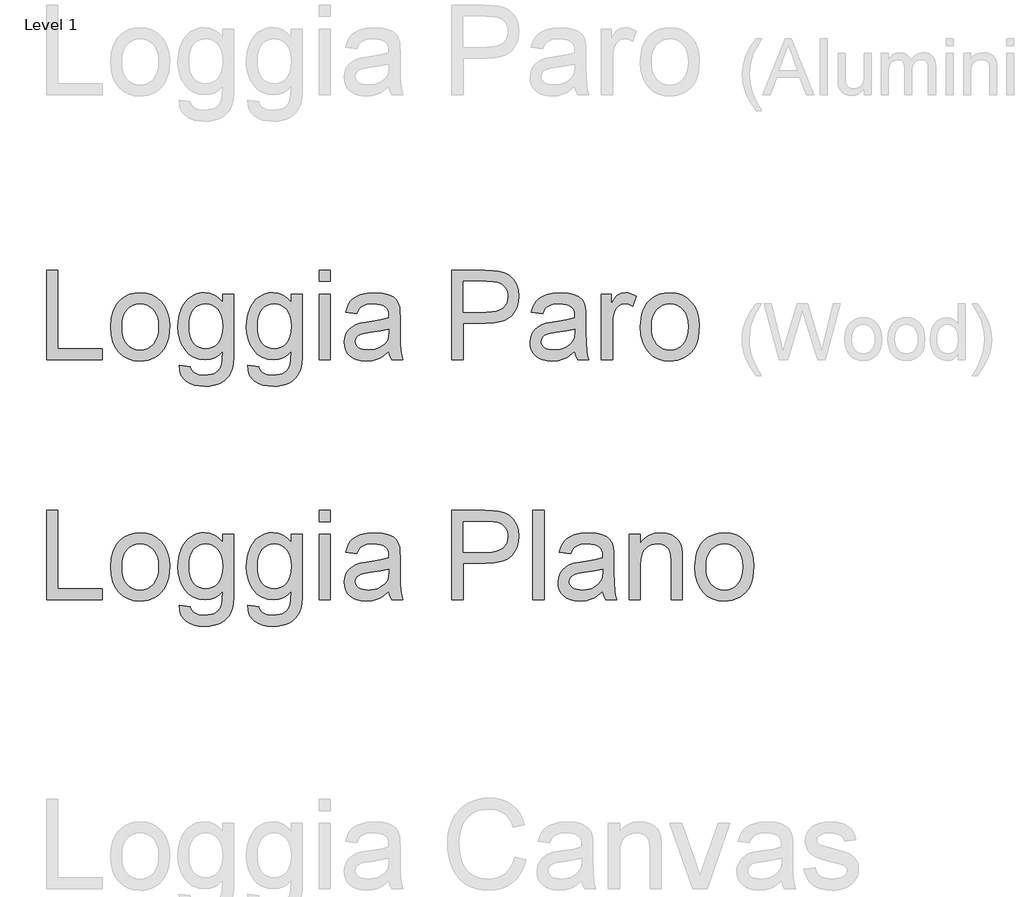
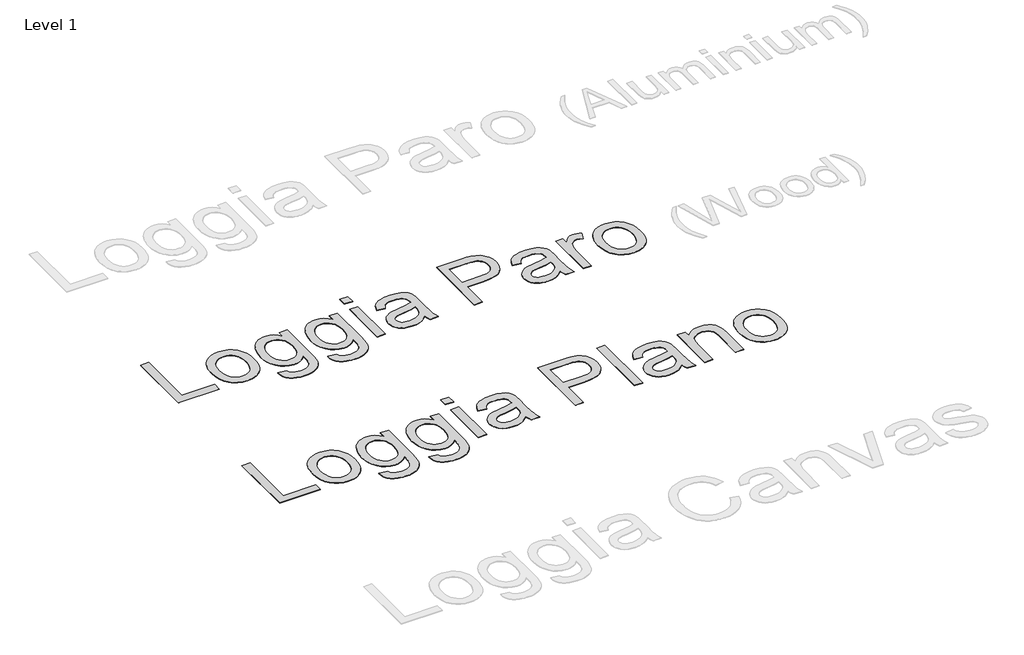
# One storey, part 31 of 69: 2 proxies.
"""IFC4 building model written with IfcOpenShell, lengths in millimetres."""

import ifcopenshell
import ifcopenshell.guid

model = None  # the IFC model being written
_history = None  # IfcOwnerHistory: only IFC2X3 demands one
_inside = {}  # id of a spatial element -> (the spatial element, [elements in it])
_under = {}  # id of a project, library or spatial element -> (it, [spatial elements below it])
_declared = {}  # id of a project -> (the project, [libraries it declares])
_typed = {}  # id of a type object -> (the type object, [elements of that type])
_made_of = {}  # id of a material, layer set ... -> (it, [elements and type objects made of it])


def new_model(schema):
    """Start an empty IFC model of exactly this schema.

    Asked for "IFC4X3", IfcOpenShell would pick the latest addendum, in which some entities
    have other attributes; the version numbers below select the first issue.
    IFC2X3 requires an IfcOwnerHistory on every rooted entity: one is made here for all.
    """
    global model, _history
    if schema == "IFC4X3":
        model = ifcopenshell.file(schema_version=(4, 3, 0, 0))
    else:
        model = ifcopenshell.file(schema=schema)
    _inside.clear()
    _under.clear()
    _declared.clear()
    _typed.clear()
    _made_of.clear()
    _history = None
    if model.schema == "IFC2X3":
        org = make("IfcOrganization", Name="unknown")
        user = make(
            "IfcPersonAndOrganization",
            ThePerson=make("IfcPerson", FamilyName="unknown"),
            TheOrganization=org,
        )
        app = make(
            "IfcApplication",
            ApplicationDeveloper=org,
            Version="unknown",
            ApplicationFullName="unknown",
            ApplicationIdentifier="unknown",
        )
        _history = make(
            "IfcOwnerHistory",
            OwningUser=user,
            OwningApplication=app,
            ChangeAction="ADDED",
            CreationDate=0,
        )
    return model


def make(cls, **values):
    """One entity of the class cls with the attributes given. An attribute that is None is left unset."""
    return model.create_entity(
        cls, **{name: value for name, value in values.items() if value is not None}
    )


def rooted(cls, **values):
    """An entity with a GlobalId (a new one), such as an element, a storey or a relation."""
    return make(cls, GlobalId=ifcopenshell.guid.new(), OwnerHistory=_history, **values)


def si_unit(unit_type, name, prefix=None):
    """IfcSIUnit, for example si_unit("LENGTHUNIT", "METRE", prefix="MILLI")."""
    return make("IfcSIUnit", UnitType=unit_type, Prefix=prefix, Name=name)


def assignment(units):
    """IfcUnitAssignment: the units of a project."""
    return None if units is None else make("IfcUnitAssignment", Units=units)


def point(xyz):
    """IfcCartesianPoint."""
    return None if xyz is None else make("IfcCartesianPoint", Coordinates=xyz)


def direction(xyz):
    """IfcDirection."""
    return None if xyz is None else make("IfcDirection", DirectionRatios=xyz)


def frame(location, z_axis=None, x_axis=None):
    """IfcAxis2Placement3D, a coordinate frame: its origin and axes. An axis left out is left unset."""
    return make(
        "IfcAxis2Placement3D",
        Location=point(location),
        Axis=direction(z_axis),
        RefDirection=direction(x_axis),
    )


def origin():
    """The frame at (0, 0, 0) with its axes left unset."""
    return frame((0.0, 0.0, 0.0))


def origin_with_axes():
    """The frame at (0, 0, 0) with the z axis (0, 0, 1) and the x axis (1, 0, 0) written out."""
    return frame((0.0, 0.0, 0.0), z_axis=(0.0, 0.0, 1.0), x_axis=(1.0, 0.0, 0.0))


def place(relative_to, where):
    """IfcLocalPlacement: puts the frame where relative to a parent placement (None: the world)."""
    return make(
        "IfcLocalPlacement", PlacementRelTo=relative_to, RelativePlacement=where
    )


def context(
    kind, dimensions, precision=None, world=None, true_north=None, identifier=None
):
    """IfcGeometricRepresentationContext, for example the 3D "Model" context."""
    return make(
        "IfcGeometricRepresentationContext",
        ContextIdentifier=identifier,
        ContextType=kind,
        CoordinateSpaceDimension=dimensions,
        Precision=precision,
        WorldCoordinateSystem=world,
        TrueNorth=true_north,
    )


def project(units=None, contexts=None):
    """IfcProject with its units and contexts."""
    return rooted(
        "IfcProject",
        Name="project",
        RepresentationContexts=contexts,
        UnitsInContext=assignment(units),
    )


def spatial(cls, under=None, at=None, **own):
    """A site, building, storey or space (cls), placed at a placement, below another one or the project."""
    s = rooted(cls, ObjectPlacement=at, **own)
    if under is not None:
        _under.setdefault(under.id(), (under, []))[1].append(s)
    return s


def polyline(points):
    """IfcPolyline through the points."""
    return make("IfcPolyline", Points=[point(p) for p in points])


def outline(outer, holes=None, kind="AREA"):
    """IfcArbitraryClosedProfileDef: a profile drawn as a closed curve; with holes, ...WithVoids."""
    if holes is None:
        return make("IfcArbitraryClosedProfileDef", ProfileType=kind, OuterCurve=outer)
    return make(
        "IfcArbitraryProfileDefWithVoids",
        ProfileType=kind,
        OuterCurve=outer,
        InnerCurves=holes,
    )


def extrude(swept, where, along, depth):
    """IfcExtrudedAreaSolid: the profile swept, set in the frame where, extruded along a direction by depth."""
    return make(
        "IfcExtrudedAreaSolid",
        SweptArea=swept,
        Position=where,
        ExtrudedDirection=direction(along),
        Depth=depth,
    )


def shape(context_of_items, identifier, shape_type, items):
    """IfcShapeRepresentation: the items that make up one representation, for example the "Body"."""
    return make(
        "IfcShapeRepresentation",
        ContextOfItems=context_of_items,
        RepresentationIdentifier=identifier,
        RepresentationType=shape_type,
        Items=items,
    )


def made_of(thing, what):
    """Note that an element or type object is made of a material, layer set ...; save() writes the relation."""
    if what is not None:
        _made_of.setdefault(what.id(), (what, []))[1].append(thing)
    return thing


def element(
    cls,
    number,
    at=None,
    inside=None,
    cuts=None,
    type_object=None,
    material=None,
    context=None,
    identifier="Body",
    shape_type=None,
    held_by="IfcProductDefinitionShape",
    body=None,
    shapes=None,
    **own,
):
    """One element of the class cls, such as IfcWall. Its Tag is "e" and its number.

    at: its placement. inside: the storey or other place that contains it. cuts: it is an
    opening in that element (IfcRelVoidsElement). A single representation is given by context,
    identifier, shape_type and body (its items); several are given by shapes. held_by: the class
    of the entity that holds the representations. save() writes the other relations.
    """
    e = rooted(cls, Tag="e%d" % number, ObjectPlacement=at, **own)
    if body is not None:
        shapes = [shape(context, identifier, shape_type, body)]
    if shapes is not None:
        e.Representation = make(held_by, Representations=shapes)
    if inside is not None:
        _inside.setdefault(inside.id(), (inside, []))[1].append(e)
    if cuts is not None:
        rooted(
            "IfcRelVoidsElement", RelatingBuildingElement=cuts, RelatedOpeningElement=e
        )
    if type_object is not None:
        _typed.setdefault(type_object.id(), (type_object, []))[1].append(e)
    return made_of(e, material)


def aggregate(whole, parts):
    """IfcRelAggregates: a whole, such as a stair, and the parts it consists of."""
    return rooted("IfcRelAggregates", RelatingObject=whole, RelatedObjects=parts)


def save(model, path):
    """Write the relations noted so far, then the file.

    IfcRelAggregates (storeys below a building ...), IfcRelContainedInSpatialStructure (elements
    in a storey), IfcRelDefinesByType, IfcRelAssociatesMaterial and IfcRelDeclares: one each for
    every whole, place, type object, material and project.
    """
    for whole, parts in _under.values():
        aggregate(whole, parts)
    for where, things in _inside.values():
        rooted(
            "IfcRelContainedInSpatialStructure",
            RelatedElements=things,
            RelatingStructure=where,
        )
    for kind, things in _typed.values():
        rooted("IfcRelDefinesByType", RelatedObjects=things, RelatingType=kind)
    for what, things in _made_of.values():
        rooted("IfcRelAssociatesMaterial", RelatedObjects=things, RelatingMaterial=what)
    for by, libraries in _declared.values():
        rooted("IfcRelDeclares", RelatingContext=by, RelatedDefinitions=libraries)
    model.write(path)


model = new_model("IFC4")

# Units and contexts
model_context = context("Model", 3, world=origin())
ifc_project = project(units=[si_unit("LENGTHUNIT", "METRE", prefix="MILLI")], contexts=[model_context])

# Site, building, storey
site = spatial("IfcSite", under=ifc_project)
building = spatial("IfcBuilding", under=site)
storey = spatial("IfcBuildingStorey", under=building, Name="Level 1", Elevation=0.0)

# Proxies
placement = place(None, origin())
element("IfcBuildingElementProxy", 1, Name="800mm Arial", ObjectType="800mm Arial", at=placement, inside=storey, context=model_context, shape_type="SweptSolid", body=[
    extrude(outline(polyline([(193965.6331768, -17074.9862349), (193965.6331768, -16275.5975366), (194065.556764, -16275.5975366), (194065.556764, -16975.0626476), (194465.2511132, -16975.0626476), (194465.2511132, -17074.9862349), (193965.6331768, -17074.9862349)])), origin_with_axes(), (0.0, 0.0, 1.0), 5.0),
    extrude(outline(polyline([(194540.1938037, -16781.4606973), (194545.5973864, -16705.4324112), (194552.3518647, -16671.3611758), (194561.8081343, -16639.9185455), (194573.9661953, -16611.1045204), (194588.8260477, -16584.9191003), (194606.3876913, -16561.3622854), (194626.6511263, -16540.4340756), (194664.7323567, -16512.0012287), (194706.7656431, -16491.6920523), (194752.7509853, -16479.5065465), (194802.6883836, -16475.4447112), (194857.8159047, -16480.39088), (194907.6618201, -16495.2293863), (194952.22613, -16519.9602302), (194991.5088342, -16554.5834117), (195023.5704979, -16597.9279511), (195046.4716863, -16648.8228691), (195060.2123993, -16707.2681656), (195064.792637, -16773.2638405), (195062.7678182, -16826.7507705), (195056.6933618, -16874.2120349), (195046.5692679, -16915.6476338), (195032.3955364, -16951.0575671), (195014.349034, -16981.6433087), (194992.6066275, -17008.6063323), (194967.1683168, -17031.946638), (194938.0341019, -17051.6642258), (194906.3383693, -17067.332176), (194873.2155054, -17078.523569), (194838.6655101, -17085.2384048), (194802.6883836, -17087.4766834), (194746.7558141, -17082.5488111), (194696.4463859, -17067.7651945), (194651.760099, -17043.1258333), (194612.6969535, -17008.6307278), (194580.9768254, -16964.8653675), (194558.3195911, -16912.4152423), (194544.7252505, -16851.2803523), (194540.1938037, -16781.4606973)]), holes=[polyline([(194640.117391, -16781.265534), (194643.0082467, -16829.733109), (194651.6808139, -16871.699308), (194666.1350926, -16907.164131), (194686.3710828, -16936.127578), (194710.9860485, -16958.6262421), (194738.5772539, -16974.6967165), (194769.1446989, -16984.3390012), (194802.6883836, -16987.5530961), (194836.0613004, -16984.3207046), (194866.5067684, -16974.6235303), (194894.0247876, -16958.4615731), (194918.6153579, -16935.8348331), (194938.8513481, -16906.58474), (194953.3056267, -16870.5527238), (194961.9781939, -16827.7387844), (194964.8690497, -16778.1429219), (194961.9598974, -16731.2122576), (194953.2324405, -16690.3438519), (194938.6866791, -16655.5377049), (194918.322613, -16626.7938165), (194893.6405599, -16604.2951524), (194866.1408373, -16588.224678), (194835.8234452, -16578.5823934), (194802.6883836, -16575.3682985), (194769.1446989, -16578.5701957), (194738.5772539, -16588.1758872), (194710.9860485, -16604.1853731), (194686.3710828, -16626.5986533), (194666.1350926, -16655.4767164), (194651.6808139, -16690.8805509), (194643.0082467, -16732.8101567), (194640.117391, -16781.265534)])]), origin_with_axes(), (0.0, 0.0, 1.0), 5.0),
    extrude(outline(polyline([(195152.2257759, -17124.9480286), (195252.1493631, -17137.438477), (195256.3697686, -17154.2713079), (195263.1760871, -17168.664598), (195272.5683189, -17180.6183475), (195284.5464637, -17190.1325562), (195303.9286146, -17199.8663236), (195326.5553547, -17206.8190147), (195381.5426022, -17212.3811675), (195412.7443278, -17210.8076637), (195440.1891607, -17206.0871524), (195463.877101, -17198.2196337), (195483.8081485, -17187.2051074), (195500.3970253, -17173.3485162), (195514.0584533, -17156.9548026), (195524.7924324, -17138.0239668), (195532.5989626, -17116.5560086), (195538.014743, -17073.5713013), (195539.4296766, -17000.0435445), (195506.1787368, -17032.8309715), (195469.0733227, -17056.2505623), (195428.1134342, -17070.3023168), (195383.2990715, -17074.9862349), (195328.5130861, -17069.5338615), (195280.2772675, -17053.176741), (195258.6156707, -17040.9089007), (195238.5916157, -17025.9148736), (195203.4561307, -16987.7482593), (195175.5782793, -16941.9580803), (195155.6655283, -16891.8255188), (195143.7178776, -16837.3505748), (195139.7353274, -16778.5332484), (195141.522291, -16737.3842956), (195146.8831817, -16697.8576373), (195155.8179995, -16659.9532736), (195168.3267445, -16623.6712044), (195184.2203522, -16590.2190025), (195203.3097582, -16560.8042405), (195225.5949626, -16535.4269183), (195251.0759652, -16514.087036), (195279.3441432, -16497.1810189), (195309.9908733, -16485.1052924), (195343.0161556, -16477.8598565), (195378.4199901, -16475.4447112), (195425.1493923, -16480.9092824), (195467.5608074, -16497.3029959), (195505.6542356, -16524.6258518), (195539.4296766, -16562.8778501), (195539.4296766, -16487.9351596), (195639.3532639, -16487.9351596), (195639.3532639, -16994.7741365), (195637.6455854, -17058.28148), (195632.5225499, -17111.7989042), (195623.9841575, -17155.3264092), (195612.030408, -17188.8639951), (195596.3746555, -17215.9124026), (195576.730254, -17239.9723728), (195553.0972034, -17261.0439057), (195525.4755038, -17279.1270012), (195494.1457023, -17293.6422684), (195459.3883461, -17304.0103164), (195421.2034352, -17310.2311452), (195379.5909696, -17312.3047548), (195330.6354865, -17309.3834048), (195286.6200733, -17300.6193548), (195247.5447301, -17286.0126048), (195213.4094567, -17265.5631548), (195185.8365479, -17239.2466095), (195166.4482982, -17207.0385733), (195155.2447075, -17168.9390464), (195152.2257759, -17124.9480286)]), holes=[polyline([(195239.6589147, -16771.7025344), (195242.324113, -16821.1093326), (195250.3197076, -16863.3560787), (195263.6456987, -16898.4427729), (195282.3020863, -16926.3694152), (195304.983716, -16947.6727044), (195330.3854336, -16962.8893395), (195358.5072391, -16972.0193206), (195389.3491324, -16975.0626476), (195419.8860832, -16972.0376172), (195447.8737139, -16962.9625257), (195473.3120246, -16947.8373734), (195496.2010153, -16926.6621601), (195515.1135546, -16899.0099662), (195528.6225113, -16864.4538721), (195536.7278853, -16822.9938778), (195539.4296766, -16774.6299833), (195536.6486002, -16728.2848087), (195528.305371, -16688.0018928), (195514.399989, -16653.7812356), (195494.9324542, -16625.622837), (195471.5494565, -16603.6364764), (195445.897686, -16587.9319331), (195417.9771426, -16578.5092071), (195387.7878264, -16575.3682985), (195358.1047148, -16578.4604163), (195330.7269693, -16587.7367699), (195305.6545897, -16603.1973591), (195282.887576, -16624.842184), (195263.9750367, -16652.5736629), (195250.4660801, -16686.2942143), (195242.3607061, -16726.0038382), (195239.6589147, -16771.7025344)])]), origin_with_axes(), (0.0, 0.0, 1.0), 5.0),
    extrude(outline(polyline([(195764.257748, -17124.9480286), (195864.1813353, -17137.438477), (195868.4017407, -17154.2713079), (195875.2080593, -17168.664598), (195884.600291, -17180.6183475), (195896.5784359, -17190.1325562), (195915.9605868, -17199.8663236), (195938.5873268, -17206.8190147), (195993.5745743, -17212.3811675), (196024.7763, -17210.8076637), (196052.2211329, -17206.0871524), (196075.9090731, -17198.2196337), (196095.8401207, -17187.2051074), (196112.4289975, -17173.3485162), (196126.0904254, -17156.9548026), (196136.8244046, -17138.0239668), (196144.6309348, -17116.5560086), (196150.0467152, -17073.5713013), (196151.4616488, -17000.0435445), (196118.210709, -17032.8309715), (196081.1052948, -17056.2505623), (196040.1454064, -17070.3023168), (195995.3310436, -17074.9862349), (195940.5450582, -17069.5338615), (195892.3092397, -17053.176741), (195870.6476429, -17040.9089007), (195850.6235878, -17025.9148736), (195815.4881028, -16987.7482593), (195787.6102514, -16941.9580803), (195767.6975004, -16891.8255188), (195755.7498498, -16837.3505748), (195751.7672996, -16778.5332484), (195753.5542632, -16737.3842956), (195758.9151539, -16697.8576373), (195767.8499717, -16659.9532736), (195780.3587167, -16623.6712044), (195796.2523244, -16590.2190025), (195815.3417304, -16560.8042405), (195837.6269347, -16535.4269183), (195863.1079374, -16514.087036), (195891.3761153, -16497.1810189), (195922.0228454, -16485.1052924), (195955.0481277, -16477.8598565), (195990.4519622, -16475.4447112), (196037.1813644, -16480.9092824), (196079.5927796, -16497.3029959), (196117.6862077, -16524.6258518), (196151.4616488, -16562.8778501), (196151.4616488, -16487.9351596), (196251.3852361, -16487.9351596), (196251.3852361, -16994.7741365), (196249.6775576, -17058.28148), (196244.5545221, -17111.7989042), (196236.0161296, -17155.3264092), (196224.0623802, -17188.8639951), (196208.4066277, -17215.9124026), (196188.7622262, -17239.9723728), (196165.1291756, -17261.0439057), (196137.5074759, -17279.1270012), (196106.1776744, -17293.6422684), (196071.4203182, -17304.0103164), (196033.2354073, -17310.2311452), (195991.6229418, -17312.3047548), (195942.6674587, -17309.3834048), (195898.6520455, -17300.6193548), (195859.5767022, -17286.0126048), (195825.4414289, -17265.5631548), (195797.8685201, -17239.2466095), (195778.4802703, -17207.0385733), (195767.2766796, -17168.9390464), (195764.257748, -17124.9480286)]), holes=[polyline([(195851.6908869, -16771.7025344), (195854.3560851, -16821.1093326), (195862.3516798, -16863.3560787), (195875.6776709, -16898.4427729), (195894.3340584, -16926.3694152), (195917.0156881, -16947.6727044), (195942.4174057, -16962.8893395), (195970.5392112, -16972.0193206), (196001.3811046, -16975.0626476), (196031.9180554, -16972.0376172), (196059.9056861, -16962.9625257), (196085.3439968, -16947.8373734), (196108.2329875, -16926.6621601), (196127.1455268, -16899.0099662), (196140.6544835, -16864.4538721), (196148.7598575, -16822.9938778), (196151.4616488, -16774.6299833), (196148.6805724, -16728.2848087), (196140.3373432, -16688.0018928), (196126.4319611, -16653.7812356), (196106.9644263, -16625.622837), (196083.5814287, -16603.6364764), (196057.9296581, -16587.9319331), (196030.0091148, -16578.5092071), (195999.8197985, -16575.3682985), (195970.136687, -16578.4604163), (195942.7589414, -16587.7367699), (195917.6865618, -16603.1973591), (195894.9195482, -16624.842184), (195876.0070089, -16652.5736629), (195862.4980522, -16686.2942143), (195854.3926782, -16726.0038382), (195851.6908869, -16771.7025344)])]), origin_with_axes(), (0.0, 0.0, 1.0), 5.0),
    extrude(outline(polyline([(196401.270617, -16375.5211239), (196401.270617, -16275.5975366), (196501.1942043, -16275.5975366), (196501.1942043, -16375.5211239), (196401.270617, -16375.5211239)])), origin_with_axes(), (0.0, 0.0, 1.0), 5.0),
    extrude(outline(polyline([(196401.270617, -17074.9862349), (196401.270617, -16487.9351596), (196501.1942043, -16487.9351596), (196501.1942043, -17074.9862349), (196401.270617, -17074.9862349)])), origin_with_axes(), (0.0, 0.0, 1.0), 5.0),
    extrude(outline(polyline([(197025.7930376, -17000.0435445), (196978.051226, -17040.9790375), (196953.6497201, -17056.140783), (196928.8944808, -17067.7651945), (196877.2006132, -17082.5488111), (196821.8474346, -17087.4766834), (196777.356311, -17084.5126414), (196738.3419563, -17075.6205155), (196704.8043704, -17060.8003057), (196676.7435535, -17040.052012), (196654.586425, -17014.6929864), (196638.7599047, -16986.0405808), (196629.2639925, -16954.0947953), (196626.0986884, -16918.8556298), (196630.8801882, -16877.4322286), (196645.2246876, -16839.8145109), (196667.3513218, -16807.6125736), (196695.4792261, -16782.4365135), (196728.5350026, -16763.408096), (196765.4452535, -16749.6490865), (196851.9025761, -16734.6215157), (196954.0705409, -16718.813292), (197025.2075478, -16700.2727826), (197025.7930376, -16678.0241714), (197024.0731614, -16653.7995322), (197018.9135328, -16633.4293673), (197010.3141518, -16616.9136767), (196998.2750184, -16604.2524604), (196977.4657362, -16591.6156396), (196952.1189083, -16582.589339), (196922.2345347, -16577.1735586), (196887.8126153, -16575.3682985), (196828.2878221, -16580.1741937), (196805.2585578, -16586.1815627), (196786.7180485, -16594.5918792), (196771.4831168, -16606.0638194), (196758.3705855, -16621.2560591), (196747.3804546, -16640.1685985), (196738.5127241, -16662.8014374), (196638.5891368, -16650.3109889), (196655.9342713, -16595.6652771), (196667.8087356, -16572.7335945), (196681.8177981, -16552.7293607), (196698.5652451, -16535.2500516), (196718.6548628, -16519.8931428), (196742.0866513, -16506.6586345), (196768.8606105, -16495.5465266), (196830.2638501, -16480.470165), (196900.6933902, -16475.4447112), (196968.2442724, -16479.8846753), (197021.7921908, -16493.2045675), (197062.1665895, -16513.2331967), (197090.1969122, -16537.7993716), (197108.7862124, -16568.1716534), (197120.8375435, -16605.6186032), (197124.4968545, -16640.1624996), (197125.7166249, -16693.0517421), (197125.7166249, -16817.3707364), (197126.9851861, -16925.6619484), (197130.7908696, -16990.968453), (197138.3046549, -17033.8799741), (197150.6975217, -17074.9862349), (197050.7739344, -17074.9862349), (197034.7705474, -17040.2471753), (197025.7930376, -17000.0435445)]), holes=[polyline([(197025.7930376, -16800.1963699), (196958.6568774, -16816.8340375), (196864.5881878, -16830.8370011), (196812.7479478, -16838.497159), (196778.6187733, -16847.0355514), (196756.2481851, -16858.1110662), (196739.6837037, -16873.382591), (196729.4376327, -16891.6791463), (196726.0222757, -16911.8297526), (196727.8824255, -16927.3574292), (196733.4628749, -16941.5433584), (196742.7636238, -16954.3875402), (196755.7846723, -16965.8899746), (196772.4040434, -16975.3675902), (196792.4997599, -16982.1373157), (196843.1202296, -16987.5530961), (196896.7901251, -16981.5762213), (196921.2831138, -16974.1051279), (196944.2147964, -16963.6455971), (196982.6619579, -16937.2253713), (197009.3993241, -16905.7796916), (197021.2554919, -16873.382591), (197025.2075478, -16828.4950421), (197025.7930376, -16800.1963699)])]), origin_with_axes(), (0.0, 0.0, 1.0), 5.0),
    extrude(outline(polyline([(197587.8632161, -17074.9862349), (197587.8632161, -16275.5975366), (197884.1210394, -16275.5975366), (197953.1112505, -16277.5003783), (198003.5609523, -16283.2089036), (198056.8161259, -16297.4314259), (198100.6546724, -16320.5826672), (198119.2622691, -16335.7688081), (198135.9548264, -16353.71163), (198163.5948226, -16397.8673168), (198174.0116614, -16423.3056275), (198181.4522606, -16449.9515108), (198187.4047399, -16506.8659955), (198183.3855966, -16555.9373568), (198171.3281666, -16601.0810575), (198151.2324501, -16642.2970977), (198123.0984469, -16679.5854774), (198105.4041532, -16696.1438599), (198084.4744187, -16710.4944581), (198060.3092433, -16722.637272), (198032.908627, -16732.5723015), (197968.4010719, -16745.8190076), (197890.9517534, -16750.2345762), (197687.7868034, -16750.2345762), (197687.7868034, -17074.9862349), (197587.8632161, -17074.9862349)]), holes=[polyline([(197687.7868034, -16650.3109889), (197896.806651, -16650.3109889), (197944.8656029, -16648.0178207), (197985.4107695, -16641.1383159), (198018.4421506, -16629.6724746), (198043.9597464, -16613.6202967), (198063.0003616, -16593.408702), (198076.600801, -16569.46461), (198084.7610647, -16541.7880207), (198087.4811526, -16510.3789341), (198085.8771546, -16487.0569249), (198081.0651605, -16465.4913851), (198073.0451705, -16445.6823146), (198061.8171844, -16427.6297134), (198047.9788897, -16411.9190712), (198032.127974, -16399.1358779), (198014.2644372, -16389.2801335), (197994.3882793, -16382.3518379), (197955.8435361, -16377.2288024), (197894.464692, -16375.5211239), (197687.7868034, -16375.5211239), (197687.7868034, -16650.3109889)])]), origin_with_axes(), (0.0, 0.0, 1.0), 5.0),
    extrude(outline(polyline([(198687.0226763, -17000.0435445), (198639.2808647, -17040.9790375), (198614.8793588, -17056.140783), (198590.1241195, -17067.7651945), (198538.430252, -17082.5488111), (198483.0770734, -17087.4766834), (198438.5859498, -17084.5126414), (198399.571595, -17075.6205155), (198366.0340092, -17060.8003057), (198337.9731922, -17040.052012), (198315.8160638, -17014.6929864), (198299.9895434, -16986.0405808), (198290.4936312, -16954.0947953), (198287.3283272, -16918.8556298), (198292.1098269, -16877.4322286), (198306.4543263, -16839.8145109), (198328.5809605, -16807.6125736), (198356.7088648, -16782.4365135), (198389.7646414, -16763.408096), (198426.6748923, -16749.6490865), (198513.1322149, -16734.6215157), (198615.3001796, -16718.813292), (198686.4371866, -16700.2727826), (198687.0226763, -16678.0241714), (198685.3028001, -16653.7995322), (198680.1431715, -16633.4293673), (198671.5437906, -16616.9136767), (198659.5046572, -16604.2524604), (198638.695375, -16591.6156396), (198613.348547, -16582.589339), (198583.4641734, -16577.1735586), (198549.042254, -16575.3682985), (198489.5174608, -16580.1741937), (198466.4881966, -16586.1815627), (198447.9476872, -16594.5918792), (198432.7127555, -16606.0638194), (198419.6002242, -16621.2560591), (198408.6100933, -16640.1685985), (198399.7423629, -16662.8014374), (198299.8187756, -16650.3109889), (198317.16391, -16595.6652771), (198329.0383744, -16572.7335945), (198343.0474369, -16552.7293607), (198359.7948838, -16535.2500516), (198379.8845015, -16519.8931428), (198403.31629, -16506.6586345), (198430.0902492, -16495.5465266), (198491.4934888, -16480.470165), (198561.923029, -16475.4447112), (198629.4739111, -16479.8846753), (198683.0218296, -16493.2045675), (198723.3962283, -16513.2331967), (198751.426551, -16537.7993716), (198770.0158511, -16568.1716534), (198782.0671822, -16605.6186032), (198785.7264933, -16640.1624996), (198786.9462636, -16693.0517421), (198786.9462636, -16817.3707364), (198788.2148248, -16925.6619484), (198792.0205083, -16990.968453), (198799.5342937, -17033.8799741), (198811.9271605, -17074.9862349), (198712.0035732, -17074.9862349), (198696.0001861, -17040.2471753), (198687.0226763, -17000.0435445)]), holes=[polyline([(198687.0226763, -16800.1963699), (198619.8865161, -16816.8340375), (198525.8178265, -16830.8370011), (198473.9775865, -16838.497159), (198439.8484121, -16847.0355514), (198417.4778238, -16858.1110662), (198400.9133424, -16873.382591), (198390.6672714, -16891.6791463), (198387.2519145, -16911.8297526), (198389.1120642, -16927.3574292), (198394.6925136, -16941.5433584), (198403.9932626, -16954.3875402), (198417.0143111, -16965.8899746), (198433.6336821, -16975.3675902), (198453.7293987, -16982.1373157), (198504.3498683, -16987.5530961), (198558.0197638, -16981.5762213), (198582.5127525, -16974.1051279), (198605.4444351, -16963.6455971), (198643.8915967, -16937.2253713), (198670.6289628, -16905.7796916), (198682.4851306, -16873.382591), (198686.4371866, -16828.4950421), (198687.0226763, -16800.1963699)])]), origin_with_axes(), (0.0, 0.0, 1.0), 5.0),
    extrude(outline(polyline([(198924.3411962, -17074.9862349), (198924.3411962, -16487.9351596), (199011.774335, -16487.9351596), (199011.774335, -16574.7828087), (199044.073854, -16524.4306885), (199059.2721926, -16507.0123679), (199073.8362506, -16494.7658736), (199103.6962288, -16480.2750018), (199136.2884926, -16475.4447112), (199161.0742262, -16477.3719483), (199186.055123, -16483.1536598), (199211.2311831, -16492.7898456), (199236.6024064, -16506.2805057), (199203.2294896, -16595.8604404), (199168.1001034, -16580.491334), (199132.9707173, -16575.3682985), (199103.1351345, -16580.2961707), (199076.4709545, -16595.0797874), (199054.9298101, -16618.5969598), (199040.4633337, -16649.7254992), (199028.314421, -16705.5421905), (199024.2647835, -16766.4331265), (199024.2647835, -17074.9862349), (198924.3411962, -17074.9862349)])), origin_with_axes(), (0.0, 0.0, 1.0), 5.0),
    extrude(outline(polyline([(199274.0737517, -16781.4606973), (199279.4773343, -16705.4324112), (199286.2318127, -16671.3611758), (199295.6880823, -16639.9185455), (199307.8461433, -16611.1045204), (199322.7059956, -16584.9191003), (199340.2676393, -16561.3622854), (199360.5310743, -16540.4340756), (199398.6123047, -16512.0012287), (199440.645591, -16491.6920523), (199486.6309333, -16479.5065465), (199536.5683316, -16475.4447112), (199591.6958527, -16480.39088), (199641.5417681, -16495.2293863), (199686.106078, -16519.9602302), (199725.3887822, -16554.5834117), (199757.4504459, -16597.9279511), (199780.3516343, -16648.8228691), (199794.0923473, -16707.2681656), (199798.672585, -16773.2638405), (199796.6477662, -16826.7507705), (199790.5733098, -16874.2120349), (199780.4492159, -16915.6476338), (199766.2754844, -16951.0575671), (199748.228982, -16981.6433087), (199726.4865755, -17008.6063323), (199701.0482648, -17031.946638), (199671.9140499, -17051.6642258), (199640.2183173, -17067.332176), (199607.0954534, -17078.523569), (199572.5454581, -17085.2384048), (199536.5683316, -17087.4766834), (199480.6357621, -17082.5488111), (199430.3263339, -17067.7651945), (199385.640047, -17043.1258333), (199346.5769014, -17008.6307278), (199314.8567734, -16964.8653675), (199292.1995391, -16912.4152423), (199278.6051985, -16851.2803523), (199274.0737517, -16781.4606973)]), holes=[polyline([(199373.997339, -16781.265534), (199376.8881947, -16829.733109), (199385.5607619, -16871.699308), (199400.0150406, -16907.164131), (199420.2510308, -16936.127578), (199444.8659965, -16958.6262421), (199472.4572018, -16974.6967165), (199503.0246469, -16984.3390012), (199536.5683316, -16987.5530961), (199569.9412484, -16984.3207046), (199600.3867164, -16974.6235303), (199627.9047356, -16958.4615731), (199652.4953059, -16935.8348331), (199672.7312961, -16906.58474), (199687.1855747, -16870.5527238), (199695.8581419, -16827.7387844), (199698.7489977, -16778.1429219), (199695.8398454, -16731.2122576), (199687.1123885, -16690.3438519), (199672.5666271, -16655.5377049), (199652.202561, -16626.7938165), (199627.5205079, -16604.2951524), (199600.0207853, -16588.224678), (199569.7033932, -16578.5823934), (199536.5683316, -16575.3682985), (199503.0246469, -16578.5701957), (199472.4572018, -16588.1758872), (199444.8659965, -16604.1853731), (199420.2510308, -16626.5986533), (199400.0150406, -16655.4767164), (199385.5607619, -16690.8805509), (199376.8881947, -16732.8101567), (199373.997339, -16781.265534)])]), origin_with_axes(), (0.0, 0.0, 1.0), 5.0),
])
element("IfcBuildingElementProxy", 2, Name="800mm Arial", ObjectType="800mm Arial", at=placement, inside=storey, context=model_context, shape_type="SweptSolid", body=[
    extrude(outline(polyline([(193965.6331768, -19220.2957285), (193965.6331768, -18420.9070302), (194065.556764, -18420.9070302), (194065.556764, -19120.3721412), (194465.2511132, -19120.3721412), (194465.2511132, -19220.2957285), (193965.6331768, -19220.2957285)])), origin_with_axes(), (0.0, 0.0, 1.0), 5.0),
    extrude(outline(polyline([(194540.1938037, -18926.7701908), (194545.5973864, -18850.7419047), (194552.3518647, -18816.6706694), (194561.8081343, -18785.2280391), (194573.9661953, -18756.4140139), (194588.8260477, -18730.2285939), (194606.3876913, -18706.671779), (194626.6511263, -18685.7435691), (194664.7323567, -18657.3107222), (194706.7656431, -18637.0015458), (194752.7509853, -18624.81604), (194802.6883836, -18620.7542047), (194857.8159047, -18625.7003735), (194907.6618201, -18640.5388799), (194952.22613, -18665.2697238), (194991.5088342, -18699.8929052), (195023.5704979, -18743.2374447), (195046.4716863, -18794.1323627), (195060.2123993, -18852.5776591), (195064.792637, -18918.5733341), (195062.7678182, -18972.060264), (195056.6933618, -19019.5215284), (195046.5692679, -19060.9571273), (195032.3955364, -19096.3670607), (195014.349034, -19126.9528023), (194992.6066275, -19153.9158259), (194967.1683168, -19177.2561316), (194938.0341019, -19196.9737194), (194906.3383693, -19212.6416695), (194873.2155054, -19223.8330625), (194838.6655101, -19230.5478983), (194802.6883836, -19232.7861769), (194746.7558141, -19227.8583047), (194696.4463859, -19213.074688), (194651.760099, -19188.4353269), (194612.6969535, -19153.9402213), (194580.9768254, -19110.1748611), (194558.3195911, -19057.7247359), (194544.7252505, -18996.5898458), (194540.1938037, -18926.7701908)]), holes=[polyline([(194640.117391, -18926.5750276), (194643.0082467, -18975.0426025), (194651.6808139, -19017.0088015), (194666.1350926, -19052.4736245), (194686.3710828, -19081.4370715), (194710.9860485, -19103.9357357), (194738.5772539, -19120.0062101), (194769.1446989, -19129.6484947), (194802.6883836, -19132.8625896), (194836.0613004, -19129.6301982), (194866.5067684, -19119.9330239), (194894.0247876, -19103.7710667), (194918.6153579, -19081.1443267), (194938.8513481, -19051.8942336), (194953.3056267, -19015.8622174), (194961.9781939, -18973.048278), (194964.8690497, -18923.4524155), (194961.9598974, -18876.5217511), (194953.2324405, -18835.6533455), (194938.6866791, -18800.8471985), (194918.322613, -18772.1033101), (194893.6405599, -18749.6046459), (194866.1408373, -18733.5341716), (194835.8234452, -18723.8918869), (194802.6883836, -18720.677792), (194769.1446989, -18723.8796892), (194738.5772539, -18733.4853807), (194710.9860485, -18749.4948666), (194686.3710828, -18771.9081468), (194666.1350926, -18800.7862099), (194651.6808139, -18836.1900444), (194643.0082467, -18878.1196503), (194640.117391, -18926.5750276)])]), origin_with_axes(), (0.0, 0.0, 1.0), 5.0),
    extrude(outline(polyline([(195152.2257759, -19270.2575221), (195252.1493631, -19282.7479706), (195256.3697686, -19299.5808014), (195263.1760871, -19313.9740916), (195272.5683189, -19325.927841), (195284.5464637, -19335.4420498), (195303.9286146, -19345.1758172), (195326.5553547, -19352.1285082), (195381.5426022, -19357.690661), (195412.7443278, -19356.1171573), (195440.1891607, -19351.396646), (195463.877101, -19343.5291272), (195483.8081485, -19332.5146009), (195500.3970253, -19318.6580097), (195514.0584533, -19302.2642962), (195524.7924324, -19283.3334603), (195532.5989626, -19261.8655021), (195538.014743, -19218.8807949), (195539.4296766, -19145.353038), (195506.1787368, -19178.1404651), (195469.0733227, -19201.5600559), (195428.1134342, -19215.6118103), (195383.2990715, -19220.2957285), (195328.5130861, -19214.843355), (195280.2772675, -19198.4862346), (195258.6156707, -19186.2183943), (195238.5916157, -19171.2243672), (195203.4561307, -19133.0577529), (195175.5782793, -19087.2675738), (195155.6655283, -19037.1350123), (195143.7178776, -18982.6600684), (195139.7353274, -18923.842742), (195141.522291, -18882.6937891), (195146.8831817, -18843.1671309), (195155.8179995, -18805.2627671), (195168.3267445, -18768.980698), (195184.2203522, -18735.5284961), (195203.3097582, -18706.113734), (195225.5949626, -18680.7364118), (195251.0759652, -18659.3965295), (195279.3441432, -18642.4905124), (195309.9908733, -18630.4147859), (195343.0161556, -18623.16935), (195378.4199901, -18620.7542047), (195425.1493923, -18626.2187759), (195467.5608074, -18642.6124895), (195505.6542356, -18669.9353454), (195539.4296766, -18708.1873436), (195539.4296766, -18633.2446532), (195639.3532639, -18633.2446532), (195639.3532639, -19140.0836301), (195637.6455854, -19203.5909735), (195632.5225499, -19257.1083977), (195623.9841575, -19300.6359028), (195612.030408, -19334.1734886), (195596.3746555, -19361.2218962), (195576.730254, -19385.2818664), (195553.0972034, -19406.3533992), (195525.4755038, -19424.4364947), (195494.1457023, -19438.9517619), (195459.3883461, -19449.3198099), (195421.2034352, -19455.5406387), (195379.5909696, -19457.6142483), (195330.6354865, -19454.6928983), (195286.6200733, -19445.9288483), (195247.5447301, -19431.3220984), (195213.4094567, -19410.8726484), (195185.8365479, -19384.556103), (195166.4482982, -19352.3480669), (195155.2447075, -19314.2485399), (195152.2257759, -19270.2575221)]), holes=[polyline([(195239.6589147, -18917.012028), (195242.324113, -18966.4188261), (195250.3197076, -19008.6655723), (195263.6456987, -19043.7522665), (195282.3020863, -19071.6789087), (195304.983716, -19092.9821979), (195330.3854336, -19108.1988331), (195358.5072391, -19117.3288142), (195389.3491324, -19120.3721412), (195419.8860832, -19117.3471107), (195447.8737139, -19108.2720193), (195473.3120246, -19093.1468669), (195496.2010153, -19071.9716536), (195515.1135546, -19044.3194597), (195528.6225113, -19009.7633656), (195536.7278853, -18968.3033713), (195539.4296766, -18919.9394769), (195536.6486002, -18873.5943023), (195528.305371, -18833.3113864), (195514.399989, -18799.0907292), (195494.9324542, -18770.9323306), (195471.5494565, -18748.94597), (195445.897686, -18733.2414267), (195417.9771426, -18723.8187007), (195387.7878264, -18720.677792), (195358.1047148, -18723.7699099), (195330.7269693, -18733.0462634), (195305.6545897, -18748.5068526), (195282.887576, -18770.1516775), (195263.9750367, -18797.8831565), (195250.4660801, -18831.6037079), (195242.3607061, -18871.3133317), (195239.6589147, -18917.012028)])]), origin_with_axes(), (0.0, 0.0, 1.0), 5.0),
    extrude(outline(polyline([(195764.257748, -19270.2575221), (195864.1813353, -19282.7479706), (195868.4017407, -19299.5808014), (195875.2080593, -19313.9740916), (195884.600291, -19325.927841), (195896.5784359, -19335.4420498), (195915.9605868, -19345.1758172), (195938.5873268, -19352.1285082), (195993.5745743, -19357.690661), (196024.7763, -19356.1171573), (196052.2211329, -19351.396646), (196075.9090731, -19343.5291272), (196095.8401207, -19332.5146009), (196112.4289975, -19318.6580097), (196126.0904254, -19302.2642962), (196136.8244046, -19283.3334603), (196144.6309348, -19261.8655021), (196150.0467152, -19218.8807949), (196151.4616488, -19145.353038), (196118.210709, -19178.1404651), (196081.1052948, -19201.5600559), (196040.1454064, -19215.6118103), (195995.3310436, -19220.2957285), (195940.5450582, -19214.843355), (195892.3092397, -19198.4862346), (195870.6476429, -19186.2183943), (195850.6235878, -19171.2243672), (195815.4881028, -19133.0577529), (195787.6102514, -19087.2675738), (195767.6975004, -19037.1350123), (195755.7498498, -18982.6600684), (195751.7672996, -18923.842742), (195753.5542632, -18882.6937891), (195758.9151539, -18843.1671309), (195767.8499717, -18805.2627671), (195780.3587167, -18768.980698), (195796.2523244, -18735.5284961), (195815.3417304, -18706.113734), (195837.6269347, -18680.7364118), (195863.1079374, -18659.3965295), (195891.3761153, -18642.4905124), (195922.0228454, -18630.4147859), (195955.0481277, -18623.16935), (195990.4519622, -18620.7542047), (196037.1813644, -18626.2187759), (196079.5927796, -18642.6124895), (196117.6862077, -18669.9353454), (196151.4616488, -18708.1873436), (196151.4616488, -18633.2446532), (196251.3852361, -18633.2446532), (196251.3852361, -19140.0836301), (196249.6775576, -19203.5909735), (196244.5545221, -19257.1083977), (196236.0161296, -19300.6359028), (196224.0623802, -19334.1734886), (196208.4066277, -19361.2218962), (196188.7622262, -19385.2818664), (196165.1291756, -19406.3533992), (196137.5074759, -19424.4364947), (196106.1776744, -19438.9517619), (196071.4203182, -19449.3198099), (196033.2354073, -19455.5406387), (195991.6229418, -19457.6142483), (195942.6674587, -19454.6928983), (195898.6520455, -19445.9288483), (195859.5767022, -19431.3220984), (195825.4414289, -19410.8726484), (195797.8685201, -19384.556103), (195778.4802703, -19352.3480669), (195767.2766796, -19314.2485399), (195764.257748, -19270.2575221)]), holes=[polyline([(195851.6908869, -18917.012028), (195854.3560851, -18966.4188261), (195862.3516798, -19008.6655723), (195875.6776709, -19043.7522665), (195894.3340584, -19071.6789087), (195917.0156881, -19092.9821979), (195942.4174057, -19108.1988331), (195970.5392112, -19117.3288142), (196001.3811046, -19120.3721412), (196031.9180554, -19117.3471107), (196059.9056861, -19108.2720193), (196085.3439968, -19093.1468669), (196108.2329875, -19071.9716536), (196127.1455268, -19044.3194597), (196140.6544835, -19009.7633656), (196148.7598575, -18968.3033713), (196151.4616488, -18919.9394769), (196148.6805724, -18873.5943023), (196140.3373432, -18833.3113864), (196126.4319611, -18799.0907292), (196106.9644263, -18770.9323306), (196083.5814287, -18748.94597), (196057.9296581, -18733.2414267), (196030.0091148, -18723.8187007), (195999.8197985, -18720.677792), (195970.136687, -18723.7699099), (195942.7589414, -18733.0462634), (195917.6865618, -18748.5068526), (195894.9195482, -18770.1516775), (195876.0070089, -18797.8831565), (195862.4980522, -18831.6037079), (195854.3926782, -18871.3133317), (195851.6908869, -18917.012028)])]), origin_with_axes(), (0.0, 0.0, 1.0), 5.0),
    extrude(outline(polyline([(196401.270617, -18520.8306174), (196401.270617, -18420.9070302), (196501.1942043, -18420.9070302), (196501.1942043, -18520.8306174), (196401.270617, -18520.8306174)])), origin_with_axes(), (0.0, 0.0, 1.0), 5.0),
    extrude(outline(polyline([(196401.270617, -19220.2957285), (196401.270617, -18633.2446532), (196501.1942043, -18633.2446532), (196501.1942043, -19220.2957285), (196401.270617, -19220.2957285)])), origin_with_axes(), (0.0, 0.0, 1.0), 5.0),
    extrude(outline(polyline([(197025.7930376, -19145.353038), (196978.051226, -19186.2885311), (196953.6497201, -19201.4502765), (196928.8944808, -19213.074688), (196877.2006132, -19227.8583047), (196821.8474346, -19232.7861769), (196777.356311, -19229.822135), (196738.3419563, -19220.9300091), (196704.8043704, -19206.1097993), (196676.7435535, -19185.3615056), (196654.586425, -19160.00248), (196638.7599047, -19131.3500744), (196629.2639925, -19099.4042888), (196626.0986884, -19064.1651234), (196630.8801882, -19022.7417222), (196645.2246876, -18985.1240045), (196667.3513218, -18952.9220672), (196695.4792261, -18927.7460071), (196728.5350026, -18908.7175896), (196765.4452535, -18894.95858), (196851.9025761, -18879.9310093), (196954.0705409, -18864.1227855), (197025.2075478, -18845.5822762), (197025.7930376, -18823.3336649), (197024.0731614, -18799.1090257), (197018.9135328, -18778.7388608), (197010.3141518, -18762.2231702), (196998.2750184, -18749.561954), (196977.4657362, -18736.9251331), (196952.1189083, -18727.8988325), (196922.2345347, -18722.4830522), (196887.8126153, -18720.677792), (196828.2878221, -18725.4836872), (196805.2585578, -18731.4910562), (196786.7180485, -18739.9013728), (196771.4831168, -18751.373313), (196758.3705855, -18766.5655527), (196747.3804546, -18785.478092), (196738.5127241, -18808.1109309), (196638.5891368, -18795.6204825), (196655.9342713, -18740.9747707), (196667.8087356, -18718.0430881), (196681.8177981, -18698.0388543), (196698.5652451, -18680.5595451), (196718.6548628, -18665.2026364), (196742.0866513, -18651.9681281), (196768.8606105, -18640.8560202), (196830.2638501, -18625.7796586), (196900.6933902, -18620.7542047), (196968.2442724, -18625.1941688), (197021.7921908, -18638.5140611), (197062.1665895, -18658.5426903), (197090.1969122, -18683.1088652), (197108.7862124, -18713.481147), (197120.8375435, -18750.9280968), (197124.4968545, -18785.4719932), (197125.7166249, -18838.3612357), (197125.7166249, -18962.68023), (197126.9851861, -19070.9714419), (197130.7908696, -19136.2779466), (197138.3046549, -19179.1894676), (197150.6975217, -19220.2957285), (197050.7739344, -19220.2957285), (197034.7705474, -19185.5566689), (197025.7930376, -19145.353038)]), holes=[polyline([(197025.7930376, -18945.5058634), (196958.6568774, -18962.1435311), (196864.5881878, -18976.1464947), (196812.7479478, -18983.8066525), (196778.6187733, -18992.345045), (196756.2481851, -19003.4205598), (196739.6837037, -19018.6920846), (196729.4376327, -19036.9886399), (196726.0222757, -19057.1392461), (196727.8824255, -19072.6669227), (196733.4628749, -19086.8528519), (196742.7636238, -19099.6970337), (196755.7846723, -19111.1994682), (196772.4040434, -19120.6770838), (196792.4997599, -19127.4468093), (196843.1202296, -19132.8625896), (196896.7901251, -19126.8857149), (196921.2831138, -19119.4146215), (196944.2147964, -19108.9550907), (196982.6619579, -19082.5348649), (197009.3993241, -19051.0891852), (197021.2554919, -19018.6920846), (197025.2075478, -18973.8045356), (197025.7930376, -18945.5058634)])]), origin_with_axes(), (0.0, 0.0, 1.0), 5.0),
    extrude(outline(polyline([(197587.8632161, -19220.2957285), (197587.8632161, -18420.9070302), (197884.1210394, -18420.9070302), (197953.1112505, -18422.8098719), (198003.5609523, -18428.5183972), (198056.8161259, -18442.7409195), (198100.6546724, -18465.8921608), (198119.2622691, -18481.0783017), (198135.9548264, -18499.0211235), (198163.5948226, -18543.1768103), (198174.0116614, -18568.615121), (198181.4522606, -18595.2610044), (198187.4047399, -18652.175489), (198183.3855966, -18701.2468503), (198171.3281666, -18746.3905511), (198151.2324501, -18787.6065913), (198123.0984469, -18824.894971), (198105.4041532, -18841.4533535), (198084.4744187, -18855.8039517), (198060.3092433, -18867.9467656), (198032.908627, -18877.8817951), (197968.4010719, -18891.1285011), (197890.9517534, -18895.5440698), (197687.7868034, -18895.5440698), (197687.7868034, -19220.2957285), (197587.8632161, -19220.2957285)]), holes=[polyline([(197687.7868034, -18795.6204825), (197896.806651, -18795.6204825), (197944.8656029, -18793.3273142), (197985.4107695, -18786.4478095), (198018.4421506, -18774.9819681), (198043.9597464, -18758.9297903), (198063.0003616, -18738.7181956), (198076.600801, -18714.7741035), (198084.7610647, -18687.0975142), (198087.4811526, -18655.6884276), (198085.8771546, -18632.3664185), (198081.0651605, -18610.8008787), (198073.0451705, -18590.9918081), (198061.8171844, -18572.9392069), (198047.9788897, -18557.2285648), (198032.127974, -18544.4453715), (198014.2644372, -18534.589627), (197994.3882793, -18527.6613314), (197955.8435361, -18522.5382959), (197894.464692, -18520.8306174), (197687.7868034, -18520.8306174), (197687.7868034, -18795.6204825)])]), origin_with_axes(), (0.0, 0.0, 1.0), 5.0),
    extrude(outline(polyline([(198312.309224, -19220.2957285), (198312.309224, -18420.9070302), (198412.2328113, -18420.9070302), (198412.2328113, -19220.2957285), (198312.309224, -19220.2957285)])), origin_with_axes(), (0.0, 0.0, 1.0), 5.0),
    extrude(outline(polyline([(198936.8316446, -19145.353038), (198889.089833, -19186.2885311), (198864.6883271, -19201.4502765), (198839.9330878, -19213.074688), (198788.2392202, -19227.8583047), (198732.8860416, -19232.7861769), (198688.394918, -19229.822135), (198649.3805633, -19220.9300091), (198615.8429774, -19206.1097993), (198587.7821604, -19185.3615056), (198565.625032, -19160.00248), (198549.7985117, -19131.3500744), (198540.3025995, -19099.4042888), (198537.1372954, -19064.1651234), (198541.9187952, -19022.7417222), (198556.2632945, -18985.1240045), (198578.3899287, -18952.9220672), (198606.5178331, -18927.7460071), (198639.5736096, -18908.7175896), (198676.4838605, -18894.95858), (198762.9411831, -18879.9310093), (198865.1091478, -18864.1227855), (198936.2461548, -18845.5822762), (198936.8316446, -18823.3336649), (198935.1117684, -18799.1090257), (198929.9521398, -18778.7388608), (198921.3527588, -18762.2231702), (198909.3136254, -18749.561954), (198888.5043432, -18736.9251331), (198863.1575153, -18727.8988325), (198833.2731416, -18722.4830522), (198798.8512223, -18720.677792), (198739.3264291, -18725.4836872), (198716.2971648, -18731.4910562), (198697.7566554, -18739.9013728), (198682.5217237, -18751.373313), (198669.4091924, -18766.5655527), (198658.4190616, -18785.478092), (198649.5513311, -18808.1109309), (198549.6277438, -18795.6204825), (198566.9728782, -18740.9747707), (198578.8473426, -18718.0430881), (198592.8564051, -18698.0388543), (198609.6038521, -18680.5595451), (198629.6934698, -18665.2026364), (198653.1252582, -18651.9681281), (198679.8992175, -18640.8560202), (198741.302457, -18625.7796586), (198811.7319972, -18620.7542047), (198879.2828793, -18625.1941688), (198932.8307978, -18638.5140611), (198973.2051965, -18658.5426903), (199001.2355192, -18683.1088652), (199019.8248194, -18713.481147), (199031.8761505, -18750.9280968), (199035.5354615, -18785.4719932), (199036.7552319, -18838.3612357), (199036.7552319, -18962.68023), (199038.023793, -19070.9714419), (199041.8294765, -19136.2779466), (199049.3432619, -19179.1894676), (199061.7361287, -19220.2957285), (198961.8125414, -19220.2957285), (198945.8091544, -19185.5566689), (198936.8316446, -19145.353038)]), holes=[polyline([(198936.8316446, -18945.5058634), (198869.6954844, -18962.1435311), (198775.6267948, -18976.1464947), (198723.7865548, -18983.8066525), (198689.6573803, -18992.345045), (198667.286792, -19003.4205598), (198650.7223106, -19018.6920846), (198640.4762397, -19036.9886399), (198637.0608827, -19057.1392461), (198638.9210325, -19072.6669227), (198644.5014818, -19086.8528519), (198653.8022308, -19099.6970337), (198666.8232793, -19111.1994682), (198683.4426504, -19120.6770838), (198703.5383669, -19127.4468093), (198754.1588366, -19132.8625896), (198807.8287321, -19126.8857149), (198832.3217208, -19119.4146215), (198855.2534034, -19108.9550907), (198893.7005649, -19082.5348649), (198920.437931, -19051.0891852), (198932.2940989, -19018.6920846), (198936.2461548, -18973.8045356), (198936.8316446, -18945.5058634)])]), origin_with_axes(), (0.0, 0.0, 1.0), 5.0),
    extrude(outline(polyline([(199174.1501644, -19220.2957285), (199174.1501644, -18633.2446532), (199274.0737517, -18633.2446532), (199274.0737517, -18715.2132209), (199290.558948, -18693.074389), (199308.7884159, -18673.8874013), (199328.7621554, -18657.6522579), (199350.4801666, -18644.3689588), (199373.9424493, -18634.0375039), (199399.1490036, -18626.6578932), (199454.7949271, -18620.7542047), (199504.049254, -18625.5113091), (199549.1563616, -18639.7826222), (199586.7740793, -18661.7872794), (199613.5602362, -18689.7444159), (199631.7348145, -18723.5808455), (199643.5177961, -18763.2233819), (199647.4698521, -18801.1338445), (199648.787204, -18859.8291939), (199648.787204, -19220.2957285), (199548.8636167, -19220.2957285), (199548.8636167, -18873.2954586), (199545.9849587, -18821.6259864), (199537.3489846, -18784.8865034), (199521.4187838, -18758.5638592), (199496.6574456, -18738.1449035), (199464.9190211, -18725.0445699), (199428.057561, -18720.677792), (199397.7157735, -18723.1295304), (199369.5329795, -18730.4847457), (199343.509179, -18742.7434377), (199319.6443721, -18759.9056066), (199299.7072256, -18783.9228848), (199285.4664068, -18816.746905), (199276.9219155, -18858.3776672), (199274.0737517, -18908.8151712), (199274.0737517, -19220.2957285), (199174.1501644, -19220.2957285)])), origin_with_axes(), (0.0, 0.0, 1.0), 5.0),
    extrude(outline(polyline([(199761.2012397, -18926.7701908), (199766.6048224, -18850.7419047), (199773.3593007, -18816.6706694), (199782.8155704, -18785.2280391), (199794.9736314, -18756.4140139), (199809.8334837, -18730.2285939), (199827.3951274, -18706.671779), (199847.6585623, -18685.7435691), (199885.7397927, -18657.3107222), (199927.7730791, -18637.0015458), (199973.7584214, -18624.81604), (200023.6958196, -18620.7542047), (200078.8233407, -18625.7003735), (200128.6692562, -18640.5388799), (200173.233566, -18665.2697238), (200212.5162702, -18699.8929052), (200244.577934, -18743.2374447), (200267.4791223, -18794.1323627), (200281.2198353, -18852.5776591), (200285.800073, -18918.5733341), (200283.7752542, -18972.060264), (200277.7007979, -19019.5215284), (200267.576704, -19060.9571273), (200253.4029725, -19096.3670607), (200235.3564701, -19126.9528023), (200213.6140635, -19153.9158259), (200188.1757528, -19177.2561316), (200159.041538, -19196.9737194), (200127.3458054, -19212.6416695), (200094.2229414, -19223.8330625), (200059.6729462, -19230.5478983), (200023.6958196, -19232.7861769), (199967.7632501, -19227.8583047), (199917.4538219, -19213.074688), (199872.767535, -19188.4353269), (199833.7043895, -19153.9402213), (199801.9842615, -19110.1748611), (199779.3270272, -19057.7247359), (199765.7326866, -18996.5898458), (199761.2012397, -18926.7701908)]), holes=[polyline([(199861.124827, -18926.5750276), (199864.0156828, -18975.0426025), (199872.68825, -19017.0088015), (199887.1425287, -19052.4736245), (199907.3785188, -19081.4370715), (199931.9934845, -19103.9357357), (199959.5846899, -19120.0062101), (199990.1521349, -19129.6484947), (200023.6958196, -19132.8625896), (200057.0687365, -19129.6301982), (200087.5142045, -19119.9330239), (200115.0322236, -19103.7710667), (200139.622794, -19081.1443267), (200159.8587841, -19051.8942336), (200174.3130628, -19015.8622174), (200182.98563, -18973.048278), (200185.8764857, -18923.4524155), (200182.9673334, -18876.5217511), (200174.2398766, -18835.6533455), (200159.6941151, -18800.8471985), (200139.3300491, -18772.1033101), (200114.647996, -18749.6046459), (200087.1482734, -18733.5341716), (200056.8308813, -18723.8918869), (200023.6958196, -18720.677792), (199990.1521349, -18723.8796892), (199959.5846899, -18733.4853807), (199931.9934845, -18749.4948666), (199907.3785188, -18771.9081468), (199887.1425287, -18800.7862099), (199872.68825, -18836.1900444), (199864.0156828, -18878.1196503), (199861.124827, -18926.5750276)])]), origin_with_axes(), (0.0, 0.0, 1.0), 5.0),
])

save(model, "model.ifc")
